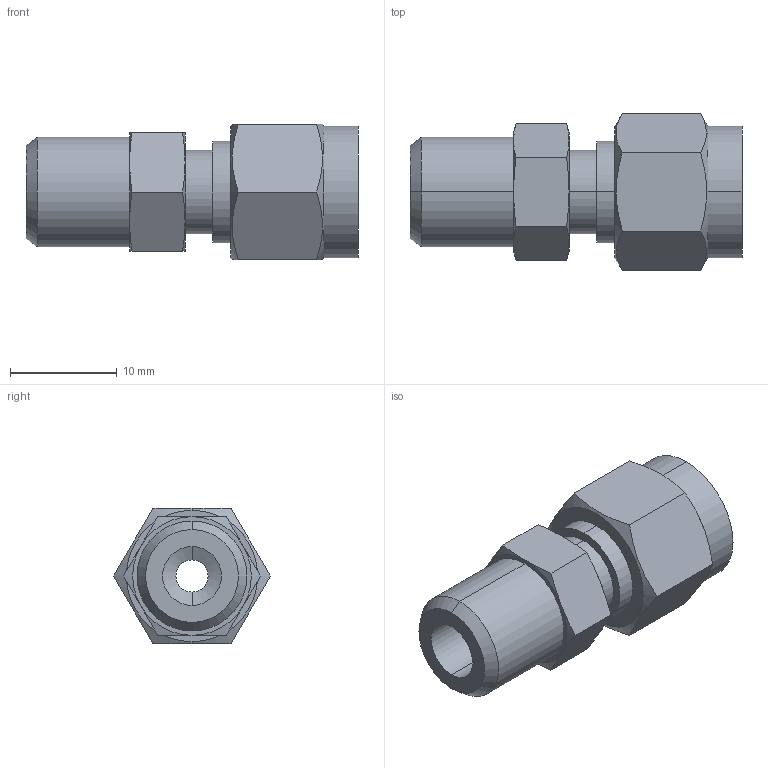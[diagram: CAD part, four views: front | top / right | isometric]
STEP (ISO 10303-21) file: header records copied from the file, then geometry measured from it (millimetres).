
FILE_DESCRIPTION (( 'STEP AP203' ), '1' );
FILE_NAME ('DCB03-02 SS.STEP', '2009-09-08T04:47:07', ( ' ' ), ( '' ), 'SwSTEP 2.0', 'SolidWorks 2008', '' );
FILE_SCHEMA (( 'CONFIG_CONTROL_DESIGN' ));
Length unit declared in the file: millimetre
Products named in the file (1): DCB03-02 SS
Bounding box: 31.1 x 14.66 x 12.7 mm (x, y, z)
Volume: 2676.8 mm3; surface area: 1902.3 mm2
Topology: 1 solids, 1 shells, 53 faces, 118 edges, 72 vertices
Faces by surface type: cone 20, plane 19, cylinder 14
Entity records: 1665 total; most frequent: CARTESIAN_POINT 452, ORIENTED_EDGE 236, DIRECTION 230, EDGE_CURVE 118, AXIS2_PLACEMENT_3D 98, VERTEX_POINT 72, EDGE_LOOP 60, ADVANCED_FACE 53
